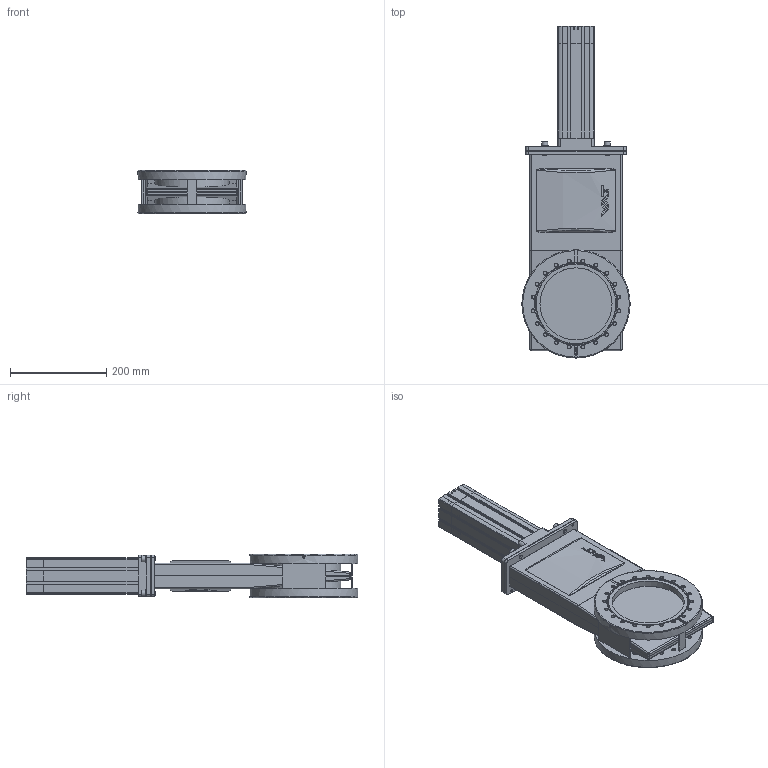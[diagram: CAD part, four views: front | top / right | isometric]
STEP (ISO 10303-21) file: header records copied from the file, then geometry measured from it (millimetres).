
FILE_DESCRIPTION(/* description */ (''),/* implementation_level */ '2;1');
FILE_NAME(/* name */ '1357587764_203.stp',/* time_stamp */ '2019-11-25T09:12:52+01:00',/* author */ (''),/* organization */ (''),/* preprocessor_version */ 'ST-DEVELOPER v16',/* originating_system */ 'SIEMENS PLM Software NX 11.0',/* authorisation */ '');
FILE_SCHEMA (('AP203_CONFIGURATION_CONTROLLED_3D_DESIGN_OF_MECHANICAL_PARTS_AND_ASSEMBLIES_MIM_LF { 1 0 10303 403 2 1 2}'));
Length unit declared in the file: millimetre
Products named in the file (16): 255802.2_27019ID; 255802.2_27018ID; 255736.1_27014ID; 319418.1_26809ID; 255788.2; 313588.1; 319418.1_27009ID; 255792.2; 590474; 228777; n-6134-409.1; 255558.4; 255803.6_MODELNX-ARRAGMNTGrundgehäuse_kpl_geschweisst-unbearbeite
t; 320582.2_MODEL; 527367_MODELNX-ARRAGMNTMassbild (Stange ausgeblendet); 725401
Assembly tree (23 placements, depth 4):
  725401
    255558.4
    n-6134-409.1  x4
    228777  x4
    527367_MODELNX-ARRAGMNTMassbild (Stange ausgeblendet)
      590474
    320582.2_MODEL
      255792.2
      319418.1_27009ID
      255803.6_MODELNX-ARRAGMNTGrundgehäuse_kpl_geschweisst-unbearbeite
t
        255736.1_27014ID
        255802.2_27018ID
        255802.2_27019ID
      313588.1  x2
      255788.2  x2
      319418.1_26809ID
Bounding box: 224.8 x 690.5 x 90 mm (x, y, z)
Volume: 3074030.7 mm3; surface area: 907706.7 mm2
Topology: 29 solids, 29 shells, 1663 faces, 4366 edges, 2817 vertices
Faces by surface type: plane 643, cylinder 543, cone 234, bspline 104, extrusion 90, torus 33, sphere 16
Full cylindrical faces by diameter (mm): 5.1 x2, 5.22 x4, 6.66 x4, 6.7 x4, 6.8 x44, 8 x10, 8.4 x4, 8.5 x4, 13 x4, 15 x4, 18 x1, 36.345 x1, 150 x2, 150.1 x6, 154.1 x3, 154.6 x2, 224.8 x2
Entity records: 57566 total; most frequent: CARTESIAN_POINT 17215, ORIENTED_EDGE 7894, DIRECTION 7503, EDGE_CURVE 3947, AXIS2_PLACEMENT_3D 2838, VERTEX_POINT 2661, EDGE_LOOP 2029, VECTOR 1827
